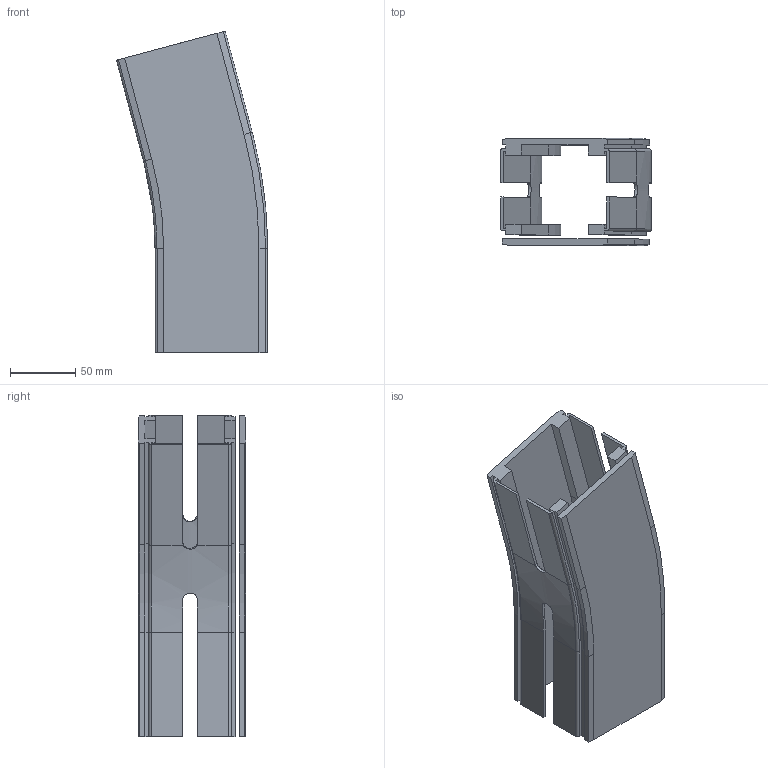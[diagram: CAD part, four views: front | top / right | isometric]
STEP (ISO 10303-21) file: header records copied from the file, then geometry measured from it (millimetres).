
FILE_DESCRIPTION(/* description */ ('GLIDKURVA SERIE 530'),/* implementation_level */ '2;1');
FILE_NAME(/* name */ '530-5375+830-2000-01.stp',/* time_stamp */ '2022-09-20T14:58:56+02:00',/* author */ ('Mathias.Dore'),/* organization */ ('CARRYLINE'),/* preprocessor_version */ 'ST-DEVELOPER v19.2',/* originating_system */ 'Autodesk Inventor 2023',/* authorisation */ '');
FILE_SCHEMA (('AUTOMOTIVE_DESIGN { 1 0 10303 214 3 1 1 }'));
Length unit declared in the file: millimetre
Products named in the file (1): 530-5375+830-2000-01
Bounding box: 115.46 x 82 x 246.05 mm (x, y, z)
Volume: 345493.6 mm3; surface area: 167397.8 mm2
Topology: 2 solids, 2 shells, 171 faces, 462 edges, 300 vertices
Faces by surface type: plane 113, cylinder 32, bspline 18, torus 4, cone 4
Entity records: 5669 total; most frequent: CARTESIAN_POINT 1324, ORIENTED_EDGE 924, DIRECTION 814, EDGE_CURVE 462, LINE 346, VECTOR 346, VERTEX_POINT 300, AXIS2_PLACEMENT_3D 234
